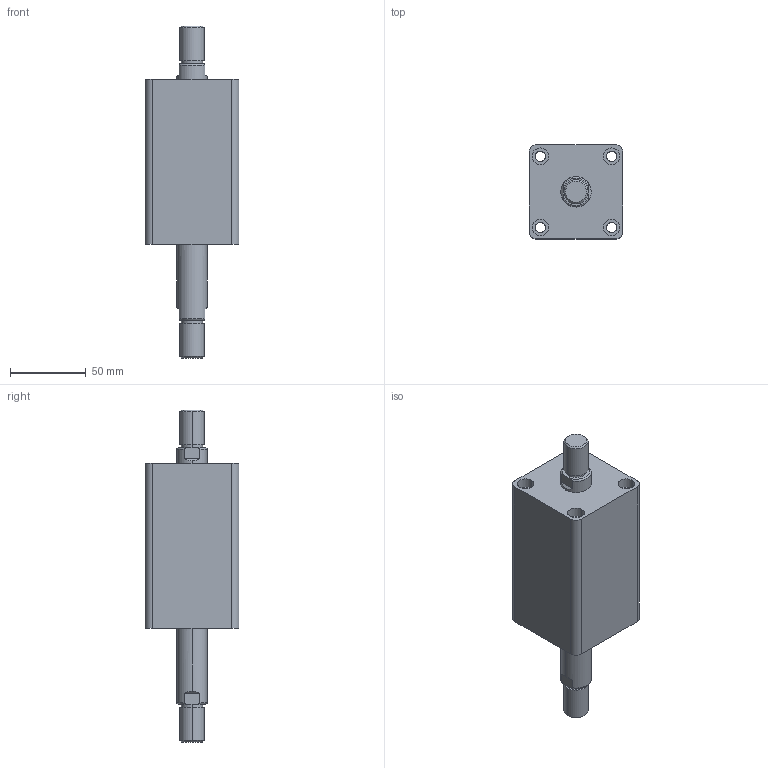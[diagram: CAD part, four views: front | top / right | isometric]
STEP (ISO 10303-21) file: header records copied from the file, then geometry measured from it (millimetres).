
FILE_DESCRIPTION (( 'STEP AP203' ), '1' );
FILE_NAME ('HTB-SW32-40W.STEP', '2019-10-07T08:53:05', ( '微软用户' ), ( '微软中国' ), 'SwSTEP 2.0', 'SolidWorks 2012', '' );
FILE_SCHEMA (( 'CONFIG_CONTROL_DESIGN' ));
Length unit declared in the file: millimetre
Products named in the file (3): HTB-SW32-40W; HTB-SW32-40W活塞杆; HTB-SW32-40掛极
Assembly tree (2 placements, depth 2):
  HTB-SW32-40W
    HTB-SW32-40掛极
    HTB-SW32-40W活塞杆
Bounding box: 62 x 62 x 219 mm (x, y, z)
Volume: 404287.7 mm3; surface area: 68927 mm2
Topology: 2 solids, 2 shells, 108 faces, 240 edges, 156 vertices
Faces by surface type: cylinder 52, plane 36, torus 12, cone 8
Entity records: 3449 total; most frequent: CARTESIAN_POINT 629, DIRECTION 586, ORIENTED_EDGE 480, AXIS2_PLACEMENT_3D 249, EDGE_CURVE 240, VERTEX_POINT 156, EDGE_LOOP 138, CIRCLE 136
